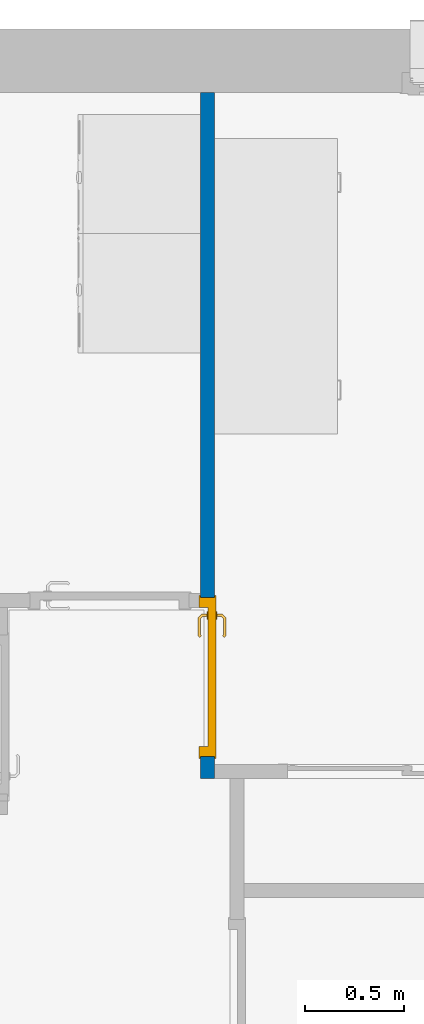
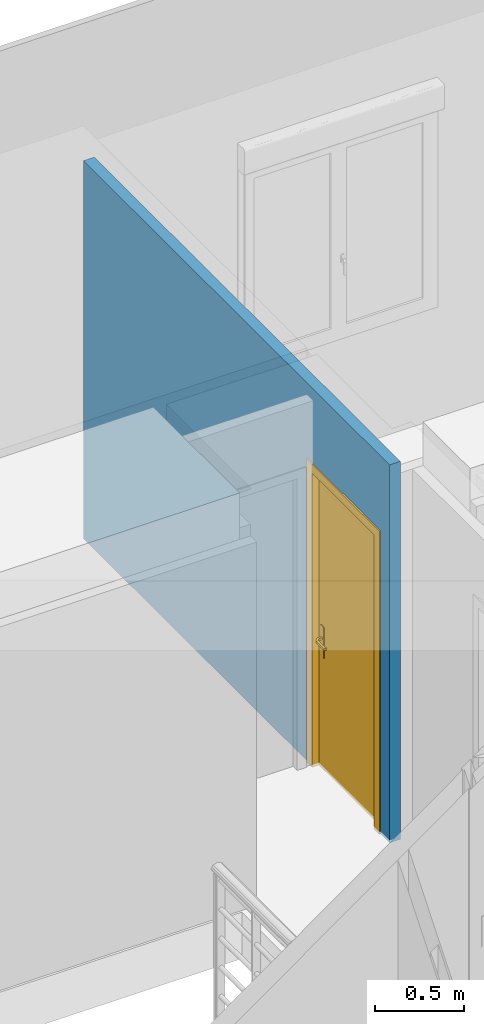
# One storey, part 39 of 50: 1 door, 1 wall, 1 opening.
"""IFC2X3 building model written with IfcOpenShell, lengths in metres."""

from ifc_helpers import new_model, entity, si_unit, converted_unit, derived_unit, direction, frame, frame_2d, origin, place, context, subcontext, project, spatial, rectangle, extrude, faceted_brep, source, transform, mapped, material, material_list, layer, layer_set, layer_usage, type_object, type_shapes, element, fill, save


model = new_model("IFC2X3")

# Units and contexts
model_context = context("Model", 3, precision=1e-05, world=origin(), true_north=direction((6.12303176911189e-17, 1.0)))
context_of_model = context(None, 3, precision=1e-05, world=origin(), true_north=direction((6.12303176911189e-17, 1.0)))
body_context = subcontext(model_context, "Body", "Model", "MODEL_VIEW")
ifc_project = project(units=[si_unit("LENGTHUNIT", "METRE"), si_unit("AREAUNIT", "SQUARE_METRE"), si_unit("VOLUMEUNIT", "CUBIC_METRE"), converted_unit("PLANEANGLEUNIT", "DEGREE", entity("IfcRatioMeasure", 0.0174532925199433), si_unit("PLANEANGLEUNIT", "RADIAN"), dimensions=[0, 0, 0, 0, 0, 0, 0]), si_unit("MASSUNIT", "GRAM", prefix="KILO"), si_unit("TIMEUNIT", "SECOND"), si_unit("FREQUENCYUNIT", "HERTZ"), si_unit("THERMODYNAMICTEMPERATUREUNIT", "DEGREE_CELSIUS"), derived_unit("THERMALTRANSMITTANCEUNIT", [(si_unit("MASSUNIT", "GRAM", prefix="KILO"), 1), (si_unit("THERMODYNAMICTEMPERATUREUNIT", "KELVIN"), -1), (si_unit("TIMEUNIT", "SECOND"), -3)]), derived_unit("VOLUMETRICFLOWRATEUNIT", [(si_unit("LENGTHUNIT", "METRE"), 3), (si_unit("TIMEUNIT", "SECOND"), -1)]), si_unit("ELECTRICCURRENTUNIT", "AMPERE"), si_unit("ELECTRICVOLTAGEUNIT", "VOLT"), si_unit("POWERUNIT", "WATT"), si_unit("FORCEUNIT", "NEWTON", prefix="KILO"), si_unit("ILLUMINANCEUNIT", "LUX"), si_unit("LUMINOUSFLUXUNIT", "LUMEN"), si_unit("LUMINOUSINTENSITYUNIT", "CANDELA"), si_unit("PRESSUREUNIT", "PASCAL")], contexts=[model_context, context_of_model])

# Site, building, storey
site_placement = place(None, origin())
site = spatial("IfcSite", under=ifc_project, at=site_placement, Name="Surface", CompositionType="ELEMENT")
building_placement = place(site_placement, origin())
building = spatial("IfcBuilding", under=site, at=building_placement, CompositionType="ELEMENT")
storey_placement = place(building_placement, frame((0.0, 0.0, 2.82)))
storey = spatial("IfcBuildingStorey", under=building, at=storey_placement, Name="ETAGE", CompositionType="ELEMENT", Elevation=2.82)

# Wall, opening, door
ifc_material_1 = material(Name="Peinture - Blanc")
ifc_layer = layer(ifc_material_1, 0.07)
ifc_layer_set = layer_set([ifc_layer], Name="Mur de base:Int.  Platre 70 mm en blanc")
ifc_layer_usage = layer_usage(ifc_layer_set, "AXIS2", "NEGATIVE", 0.035)
wall_type = type_object("IfcWallType", Name="Mur de base:Int.  Platre 70 mm en blanc", PredefinedType="STANDARD", material=ifc_layer_set)
wall_placement = place(storey_placement, frame((87.5139023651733, 92.1475239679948, 0.0), z_axis=(0.0, 0.0, 1.0), x_axis=(0.0, -1.0, 0.0)))
wall = element("IfcWallStandardCase", 1, at=wall_placement, inside=storey, type_object=wall_type, material=ifc_layer_usage, Name="Mur de base:Int.  Platre 70 mm en blanc", ObjectType="Mur de base:Int.  Platre 70 mm en blanc", context=body_context, shape_type="SweptSolid", body=[
    extrude(rectangle(XDim=3.45000000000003, YDim=0.0699999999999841, at=frame_2d((1.72500000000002, 0.0), x_axis=(-1.0, 0.0))), origin(), (0.0, 0.0, 1.0), 2.6),
])
opening_placement = place(wall_placement, frame((2.54000000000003, -0.035, 0.0)))
opening = element("IfcOpeningElement", 2, at=opening_placement, cuts=wall, Name="FR_Simple (R):73 x 204 - (70):1", ObjectType="Opening", context=body_context, shape_type="SweptSolid", body=[
    extrude(rectangle(XDim=2.075, YDim=0.799999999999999, at=frame_2d((1.0375, 0.4), x_axis=(1.0, 0.0))), frame((0.0, 0.0, 0.0), z_axis=(0.0, 1.0, 0.0), x_axis=(0.0, 0.0, 1.0)), (0.0, 0.0, 1.0), 0.07),
])
ifc_material_2 = material(Name="Poignée Porte")
ifc_material_3 = material(Name="Dormants Portes")
ifc_material_4 = material(Name="Panneaux Portes")
ifc_material_list_1 = material_list([ifc_material_2, ifc_material_3, ifc_material_4])
ifc_material_list_2 = material_list([ifc_material_2, ifc_material_3, ifc_material_4])
door_style = type_object("IfcDoorStyle", Name="73 x 204 - (70)", ConstructionType="NOTDEFINED", OperationType="SINGLE_SWING_RIGHT", ParameterTakesPrecedence=False, Sizeable=False, material=ifc_material_list_2)
shared_shape = source(origin(), body_context, "Body", "Brep", [
    faceted_brep([(0.710000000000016, -0.0130000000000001, 0.764641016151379), (0.720352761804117, -0.0130000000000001, 0.766003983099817), (0.730000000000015, -0.0130000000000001, 0.770000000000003), (0.730000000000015, -0.0130000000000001, 0.980000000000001), (0.720352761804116, -0.0130000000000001, 0.983996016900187), (0.710000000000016, -0.0130000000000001, 0.985358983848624), (0.699647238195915, -0.0130000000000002, 0.983996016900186), (0.690000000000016, -0.0130000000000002, 0.980000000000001), (0.690000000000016, -0.0130000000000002, 0.770000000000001), (0.699647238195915, -0.0130000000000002, 0.766003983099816), (0.730000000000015, -0.00800000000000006, 0.980000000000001), (0.730000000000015, -0.00800000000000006, 0.770000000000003), (0.720352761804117, -0.00800000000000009, 0.766003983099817), (0.710000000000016, -0.00800000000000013, 0.764641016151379), (0.699647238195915, -0.00800000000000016, 0.766003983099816), (0.690000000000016, -0.00800000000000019, 0.770000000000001), (0.690000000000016, -0.00800000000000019, 0.980000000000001), (0.699647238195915, -0.00800000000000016, 0.983996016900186), (0.710000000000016, -0.00800000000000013, 0.985358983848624), (0.720352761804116, -0.00800000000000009, 0.983996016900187)], [[[0, 1, 2, 3, 4, 5, 6, 7, 8, 9]], [[10, 11, 12, 13, 14, 15, 16, 17, 18, 19]], [[1, 12, 11, 2]], [[0, 13, 12, 1]], [[9, 14, 13, 0]], [[9, 8, 15, 14]], [[15, 8, 7, 16]], [[6, 17, 16, 7]], [[5, 18, 17, 6]], [[4, 19, 18, 5]], [[4, 3, 10, 19]], [[10, 3, 2, 11]]]),
    faceted_brep([(0.730000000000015, 0.0319999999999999, 0.770000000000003), (0.730000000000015, 0.0319999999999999, 0.980000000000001), (0.720352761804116, 0.0319999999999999, 0.983996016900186), (0.710000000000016, 0.0319999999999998, 0.985358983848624), (0.699647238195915, 0.0319999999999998, 0.983996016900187), (0.690000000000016, 0.0319999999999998, 0.980000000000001), (0.690000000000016, 0.0319999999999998, 0.770000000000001), (0.699647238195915, 0.0319999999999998, 0.766003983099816), (0.710000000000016, 0.0319999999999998, 0.764641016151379), (0.720352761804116, 0.0319999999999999, 0.766003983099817), (0.710000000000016, 0.0369999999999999, 0.985358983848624), (0.720352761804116, 0.0369999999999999, 0.983996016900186), (0.730000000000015, 0.0369999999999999, 0.980000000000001), (0.730000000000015, 0.0369999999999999, 0.770000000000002), (0.720352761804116, 0.0369999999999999, 0.766003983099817), (0.710000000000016, 0.0369999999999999, 0.764641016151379), (0.699647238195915, 0.0369999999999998, 0.766003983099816), (0.690000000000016, 0.0369999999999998, 0.770000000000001), (0.690000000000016, 0.0369999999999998, 0.980000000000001), (0.699647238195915, 0.0369999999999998, 0.983996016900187)], [[[0, 1, 2, 3, 4, 5, 6, 7, 8, 9]], [[10, 11, 12, 13, 14, 15, 16, 17, 18, 19]], [[4, 19, 18, 5]], [[3, 10, 19, 4]], [[2, 11, 10, 3]], [[2, 1, 12, 11]], [[12, 1, 0, 13]], [[9, 14, 13, 0]], [[8, 15, 14, 9]], [[7, 16, 15, 8]], [[7, 6, 17, 16]], [[17, 6, 5, 18]]]),
    faceted_brep([(0.707974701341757, -0.0130000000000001, 0.907780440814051), (0.712025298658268, -0.0130000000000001, 0.907780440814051), (0.716000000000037, -0.0130000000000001, 0.906999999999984), (0.716000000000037, -0.0130000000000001, 0.892999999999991), (0.712025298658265, -0.0130000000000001, 0.892219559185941), (0.707974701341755, -0.0130000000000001, 0.89221955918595), (0.703999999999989, -0.0130000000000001, 0.893000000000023), (0.703999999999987, -0.0130000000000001, 0.90699999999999), (0.712025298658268, -0.0390045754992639, 0.907780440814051), (0.716000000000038, -0.0406509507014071, 0.906999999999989), (0.707974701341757, -0.0373267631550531, 0.907780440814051), (0.694298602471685, -0.0510028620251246, 0.907780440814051), (0.695976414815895, -0.0550534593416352, 0.907780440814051), (0.609142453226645, -0.0550534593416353, 0.90778044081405), (0.610820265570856, -0.0510028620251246, 0.90778044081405), (0.604342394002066, -0.0445249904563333, 0.90778044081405), (0.601478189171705, -0.0473891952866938, 0.90778044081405), (0.703999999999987, -0.0356803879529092, 0.90699999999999), (0.703999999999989, -0.0356803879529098, 0.893000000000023), (0.707974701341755, -0.0373267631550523, 0.89221955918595), (0.712025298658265, -0.0390045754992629, 0.89221955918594), (0.695976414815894, -0.0550534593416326, 0.89221955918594), (0.694298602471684, -0.0510028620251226, 0.89221955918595), (0.610820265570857, -0.0510028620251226, 0.89221955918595), (0.609142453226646, -0.0550534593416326, 0.89221955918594), (0.601478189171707, -0.0473891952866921, 0.89221955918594), (0.604342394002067, -0.044524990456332, 0.89221955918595), (0.716000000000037, -0.0406509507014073, 0.892999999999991), (0.69762279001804, -0.059028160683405, 0.906999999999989), (0.692652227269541, -0.0470281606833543, 0.90699999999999), (0.692652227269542, -0.0470281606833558, 0.893000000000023), (0.697622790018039, -0.0590281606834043, 0.892999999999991), (0.65255943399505, -0.053182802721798, 0.907878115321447), (0.657692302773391, -0.0590281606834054, 0.906999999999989), (0.607496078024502, -0.0590281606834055, 0.906999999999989), (0.652559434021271, -0.0470281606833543, 0.90699999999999), (0.612466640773, -0.0470281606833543, 0.906999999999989), (0.652559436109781, -0.0470281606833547, 0.893000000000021), (0.612466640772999, -0.0470281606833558, 0.893000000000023), (0.652559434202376, -0.0531828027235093, 0.892121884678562), (0.647426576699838, -0.0590281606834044, 0.892999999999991), (0.607496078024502, -0.0590281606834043, 0.892999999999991), (0.607152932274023, -0.0417144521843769, 0.89300000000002), (0.598667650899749, -0.0501997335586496, 0.892999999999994), (0.598667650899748, -0.0501997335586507, 0.906999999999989), (0.607152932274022, -0.0417144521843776, 0.906999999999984)], [[[0, 1, 2, 3, 4, 5, 6, 7]], [[2, 1, 8, 9]], [[1, 0, 10, 11, 12, 8]], [[13, 14, 15, 16]], [[0, 7, 17, 10]], [[18, 17, 7, 6]], [[5, 19, 18, 6]], [[5, 4, 20, 21, 22, 19]], [[23, 24, 25, 26]], [[3, 27, 20, 4]], [[9, 27, 3, 2]], [[9, 8, 12, 28]], [[10, 17, 29, 11]], [[30, 29, 17, 18]], [[18, 19, 22, 30]], [[20, 27, 31, 21]], [[28, 31, 27, 9]], [[12, 32, 33]], [[13, 33, 32]], [[33, 28, 12]], [[33, 13, 34]], [[11, 35, 32]], [[32, 12, 11]], [[32, 35, 14]], [[35, 11, 29]], [[36, 14, 35]], [[13, 32, 14]], [[30, 37, 38, 36, 35, 29]], [[39, 37, 22]], [[40, 41, 24]], [[40, 21, 31]], [[39, 21, 40]], [[23, 37, 39]], [[39, 24, 23]], [[30, 22, 37]], [[37, 23, 38]], [[21, 39, 22]], [[24, 39, 40]], [[31, 28, 33, 34, 41, 40]], [[42, 26, 25, 43, 44, 16, 15, 45]], [[13, 16, 44, 34]], [[36, 45, 15, 14]], [[42, 45, 36, 38]], [[38, 23, 26, 42]], [[24, 41, 43, 25]], [[44, 43, 41, 34]]]),
    faceted_brep([(0.712025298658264, 0.0369999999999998, 0.907780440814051), (0.707974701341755, 0.0369999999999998, 0.907780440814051), (0.703999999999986, 0.0369999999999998, 0.90699999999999), (0.703999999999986, 0.0369999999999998, 0.89300000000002), (0.707974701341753, 0.0369999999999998, 0.892219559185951), (0.712025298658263, 0.0369999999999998, 0.892219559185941), (0.716000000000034, 0.0369999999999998, 0.892999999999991), (0.716000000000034, 0.0369999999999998, 0.90699999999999), (0.703999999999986, 0.0594852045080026, 0.90699999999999), (0.703999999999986, 0.0594852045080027, 0.89300000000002), (0.707974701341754, 0.0611315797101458, 0.907780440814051), (0.712025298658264, 0.0628093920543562, 0.907780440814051), (0.695838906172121, 0.0789957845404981, 0.907780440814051), (0.69416109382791, 0.0749451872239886, 0.907780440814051), (0.610793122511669, 0.0749451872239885, 0.907780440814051), (0.609115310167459, 0.0789957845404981, 0.907780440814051), (0.601451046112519, 0.071331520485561, 0.907780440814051), (0.604315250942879, 0.0684673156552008, 0.907780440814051), (0.716000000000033, 0.0644557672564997, 0.90699999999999), (0.716000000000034, 0.0644557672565, 0.892999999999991), (0.712025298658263, 0.0628093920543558, 0.892219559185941), (0.707974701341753, 0.0611315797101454, 0.892219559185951), (0.69416109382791, 0.0749451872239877, 0.892219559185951), (0.69583890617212, 0.0789957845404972, 0.892219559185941), (0.609115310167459, 0.0789957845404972, 0.89221955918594), (0.610793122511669, 0.0749451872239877, 0.89221955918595), (0.60431525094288, 0.0684673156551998, 0.89221955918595), (0.60145104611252, 0.07133152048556, 0.89221955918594), (0.692514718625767, 0.07097048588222, 0.89300000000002), (0.692514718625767, 0.0709704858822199, 0.90699999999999), (0.697485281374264, 0.0829704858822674, 0.90699999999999), (0.697485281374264, 0.082970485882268, 0.892999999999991), (0.652477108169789, 0.0709704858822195, 0.90699999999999), (0.612439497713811, 0.0709704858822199, 0.90699999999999), (0.612439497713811, 0.0709704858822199, 0.89300000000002), (0.652477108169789, 0.0709704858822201, 0.89300000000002), (0.652477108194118, 0.0771249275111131, 0.907878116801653), (0.647399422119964, 0.0829704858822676, 0.90699999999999), (0.607468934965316, 0.0829704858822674, 0.90699999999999), (0.657554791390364, 0.0829704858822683, 0.892999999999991), (0.607468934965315, 0.082970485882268, 0.892999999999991), (0.65247710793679, 0.0771249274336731, 0.892121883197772), (0.598640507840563, 0.0741420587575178, 0.90699999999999), (0.598640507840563, 0.074142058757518, 0.892999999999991), (0.607125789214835, 0.0656567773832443, 0.89300000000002), (0.607125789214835, 0.0656567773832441, 0.90699999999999)], [[[0, 1, 2, 3, 4, 5, 6, 7]], [[8, 9, 3, 2]], [[1, 10, 8, 2]], [[1, 0, 11, 12, 13, 10]], [[14, 15, 16, 17]], [[7, 18, 11, 0]], [[18, 7, 6, 19]], [[6, 5, 20, 19]], [[5, 4, 21, 22, 23, 20]], [[24, 25, 26, 27]], [[4, 3, 9, 21]], [[28, 9, 8, 29]], [[8, 10, 13, 29]], [[18, 30, 12, 11]], [[31, 30, 18, 19]], [[19, 20, 23, 31]], [[21, 9, 28, 22]], [[28, 29, 32, 33, 34, 35]], [[36, 32, 13]], [[37, 38, 15]], [[37, 12, 30]], [[36, 12, 37]], [[14, 32, 36]], [[36, 15, 14]], [[29, 13, 32]], [[32, 14, 33]], [[12, 36, 13]], [[15, 36, 37]], [[30, 31, 39, 40, 38, 37]], [[23, 41, 39]], [[24, 39, 41]], [[39, 31, 23]], [[39, 24, 40]], [[22, 35, 41]], [[41, 23, 22]], [[41, 35, 25]], [[35, 22, 28]], [[34, 25, 35]], [[24, 41, 25]], [[17, 16, 42, 43, 27, 26, 44, 45]], [[44, 34, 33, 45]], [[33, 14, 17, 45]], [[15, 38, 42, 16]], [[42, 38, 40, 43]], [[24, 27, 43, 40]], [[34, 44, 26, 25]]]),
    faceted_brep([(0.800000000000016, 0.0, 0.0), (0.810000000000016, 0.0, 0.0), (0.810000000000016, -0.00799999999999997, 0.0), (0.765000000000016, -0.00799999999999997, 0.0), (0.765000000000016, 0.032, 0.0), (0.750000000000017, 0.032, 0.0), (0.750000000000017, 0.0780000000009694, 0.0), (0.810000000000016, 0.0780000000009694, 0.0), (0.810000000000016, 0.0700000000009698, 0.0), (0.800000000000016, 0.0700000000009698, 0.0), (0.800000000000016, 0.0700000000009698, 2.075), (0.800000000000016, 0.0, 2.075), (0.810000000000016, 0.0700000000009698, 2.085), (-0.00999999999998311, 0.0700000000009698, 2.085), (-0.00999999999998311, 0.0700000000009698, 0.0), (0.0, 0.0700000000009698, 0.0), (0.0, 0.0700000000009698, 2.075), (0.810000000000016, 0.0780000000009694, 2.085), (0.750000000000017, 0.0780000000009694, 2.025), (0.0500000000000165, 0.0780000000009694, 2.025), (0.0500000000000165, 0.0780000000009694, 0.0), (-0.00999999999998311, 0.0780000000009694, 0.0), (-0.00999999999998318, 0.0780000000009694, 2.085), (0.750000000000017, 0.032, 2.025), (0.765000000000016, 0.032, 2.04), (0.0350000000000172, 0.032, 2.04), (0.0350000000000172, 0.032, 0.0), (0.0500000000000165, 0.032, 0.0), (0.0500000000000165, 0.032, 2.025), (0.765000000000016, -0.00799999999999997, 2.04), (0.810000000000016, -0.00799999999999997, 2.085), (-0.00999999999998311, -0.00799999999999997, 2.085), (-0.00999999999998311, -0.00799999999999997, 0.0), (0.0350000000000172, -0.00799999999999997, 0.0), (0.0350000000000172, -0.00799999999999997, 2.04), (0.810000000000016, 0.0, 2.085), (0.0, 0.0, 2.075), (0.0, 0.0, 0.0), (-0.00999999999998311, 0.0, 0.0), (-0.00999999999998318, 0.0, 2.085)], [[[0, 1, 2, 3, 4, 5, 6, 7, 8, 9]], [[9, 10, 11, 0]], [[8, 12, 13, 14, 15, 16, 10, 9]], [[7, 17, 12, 8]], [[6, 18, 19, 20, 21, 22, 17, 7]], [[5, 23, 18, 6]], [[4, 24, 25, 26, 27, 28, 23, 5]], [[3, 29, 24, 4]], [[2, 30, 31, 32, 33, 34, 29, 3]], [[1, 35, 30, 2]], [[0, 11, 36, 37, 38, 39, 35, 1]], [[10, 16, 36, 11]], [[17, 22, 13, 12]], [[23, 28, 19, 18]], [[29, 34, 25, 24]], [[35, 39, 31, 30]], [[37, 15, 14, 21, 20, 27, 26, 33, 32, 38]], [[16, 15, 37, 36]], [[22, 21, 14, 13]], [[28, 27, 20, 19]], [[34, 33, 26, 25]], [[39, 38, 32, 31]]]),
    faceted_brep([(0.765000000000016, -0.00799999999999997, 2.04), (0.0350000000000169, -0.00799999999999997, 2.04), (0.0350000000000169, -0.00799999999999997, 0.0), (0.765000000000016, -0.00799999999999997, 0.0), (0.765000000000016, 0.032, 2.04), (0.765000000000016, 0.032, 0.0), (0.0350000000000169, 0.032, 0.0), (0.0350000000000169, 0.032, 2.04)], [[[0, 1, 2, 3]], [[4, 5, 6, 7]], [[3, 5, 4, 0]], [[2, 6, 5, 3]], [[1, 7, 6, 2]], [[0, 4, 7, 1]]]),
])
type_shapes(door_style, [shared_shape])
door_placement = place(opening_placement, frame((0.800000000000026, 0.0699999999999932, 0.0), z_axis=(0.0, 0.0, 1.0), x_axis=(-1.0, 0.0, 0.0)))
door = element("IfcDoor", 3, at=door_placement, inside=storey, type_object=door_style, material=ifc_material_list_1, Name="FR_Simple (R):73 x 204 - (70)", ObjectType="73 x 204 - (70)", OverallHeight=2.075, OverallWidth=0.800000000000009, context=body_context, shape_type="MappedRepresentation", body=[
    mapped(shared_shape, transform((0.0, 0.0, 0.0), scale=1.0)),
])
fill(opening, door)

save(model, "model.ifc")
